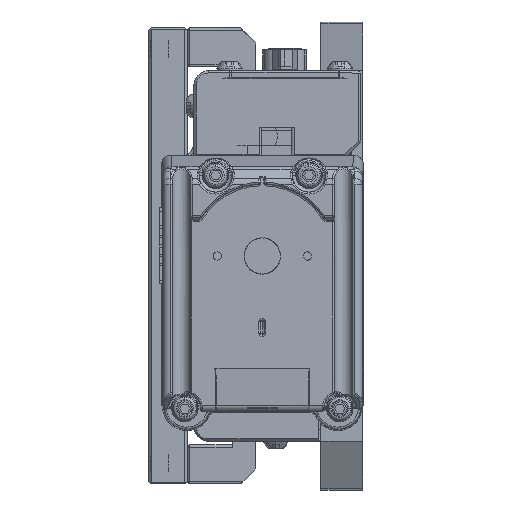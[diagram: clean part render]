
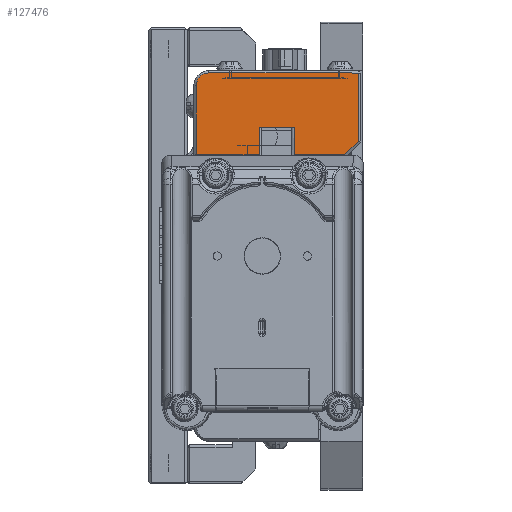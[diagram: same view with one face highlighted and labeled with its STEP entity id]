
A CAD part, left-side view. The second image highlights one B-rep face of the part: STEP entity #127476.
In plain terms, the highlighted planar face has unit normal (-1, 0, 0).
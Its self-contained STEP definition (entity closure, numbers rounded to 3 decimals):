
#1345 = LINE ( 'NONE', #125693, #73731 ) ;
#3693 = CARTESIAN_POINT ( 'NONE',  ( -73.66, 35.763, 77.978 ) ) ;
#4002 = VECTOR ( 'NONE', #42427, 1000. ) ;
#5499 = CARTESIAN_POINT ( 'NONE',  ( -73.66, 0.965, 77.978 ) ) ;
#5860 = DIRECTION ( 'NONE',  ( 0., 0., 1. ) ) ;
#7007 = LINE ( 'NONE', #8100, #59366 ) ;
#8100 = CARTESIAN_POINT ( 'NONE',  ( -73.66, 14.554, 78.486 ) ) ;
#8378 = LINE ( 'NONE', #28556, #83942 ) ;
#17594 = DIRECTION ( 'NONE',  ( 0., 0., 1. ) ) ;
#18626 = DIRECTION ( 'NONE',  ( 0., -0.707, 0.707 ) ) ;
#19107 = VERTEX_POINT ( 'NONE', #49778 ) ;
#20008 = LINE ( 'NONE', #3693, #66090 ) ;
#20476 = CARTESIAN_POINT ( 'NONE',  ( -73.66, 3.843, 60.706 ) ) ;
#22570 = CARTESIAN_POINT ( 'NONE',  ( -73.66, 35.763, 66.548 ) ) ;
#26547 = VERTEX_POINT ( 'NONE', #52118 ) ;
#28556 = CARTESIAN_POINT ( 'NONE',  ( -73.66, 3.843, 60.706 ) ) ;
#29888 = CARTESIAN_POINT ( 'NONE',  ( -73.66, 32.588, 75.311 ) ) ;
#32718 = DIRECTION ( 'NONE',  ( 0., -1., 0. ) ) ;
#33435 = LINE ( 'NONE', #120049, #108877 ) ;
#34722 = DIRECTION ( 'NONE',  ( 0., 0., 1. ) ) ;
#35743 = CARTESIAN_POINT ( 'NONE',  ( -73.66, 35.763, 60.706 ) ) ;
#39764 = DIRECTION ( 'NONE',  ( 0., 0., -1. ) ) ;
#39941 = CARTESIAN_POINT ( 'NONE',  ( -73.66, 35.255, 60.706 ) ) ;
#40910 = EDGE_CURVE ( 'NONE', #117172, #26547, #33435, .T. ) ;
#42427 = DIRECTION ( 'NONE',  ( 0., -1., 0. ) ) ;
#42434 = LINE ( 'NONE', #35743, #91723 ) ;
#44196 = CARTESIAN_POINT ( 'NONE',  ( -73.66, 21.92, 78.486 ) ) ;
#47639 = EDGE_LOOP ( 'NONE', ( #79952, #84134, #91567, #92750, #96919, #97427, #108645, #109687, #112268, #113046 ) ) ;
#49778 = CARTESIAN_POINT ( 'NONE',  ( -73.66, 32.588, 77.978 ) ) ;
#50933 = CARTESIAN_POINT ( 'NONE',  ( -73.66, 21.92, 60.706 ) ) ;
#52118 = CARTESIAN_POINT ( 'NONE',  ( -73.66, 35.255, 75.311 ) ) ;
#53344 = LINE ( 'NONE', #22570, #4002 ) ;
#54961 = PLANE ( 'NONE',  #84623 ) ;
#58354 = CARTESIAN_POINT ( 'NONE',  ( -73.66, 0.965, 63.583 ) ) ;
#59366 = VECTOR ( 'NONE', #86971, 1000. ) ;
#59784 = CARTESIAN_POINT ( 'NONE',  ( -73.66, 14.554, 66.548 ) ) ;
#61471 = EDGE_CURVE ( 'NONE', #71364, #78594, #53344, .T. ) ;
#62026 = EDGE_CURVE ( 'NONE', #78594, #69283, #7007, .T. ) ;
#62535 = VERTEX_POINT ( 'NONE', #5499 ) ;
#62596 = EDGE_CURVE ( 'NONE', #69283, #76593, #42434, .T. ) ;
#62930 = VECTOR ( 'NONE', #32718, 1000. ) ;
#62987 = EDGE_CURVE ( 'NONE', #76593, #88382, #8378, .T. ) ;
#63524 = EDGE_CURVE ( 'NONE', #88382, #62535, #1345, .T. ) ;
#63901 = EDGE_CURVE ( 'NONE', #91481, #71364, #81521, .T. ) ;
#64809 = DIRECTION ( 'NONE',  ( -1., 0., 0. ) ) ;
#66090 = VECTOR ( 'NONE', #82602, 1000. ) ;
#69283 = VERTEX_POINT ( 'NONE', #92999 ) ;
#71364 = VERTEX_POINT ( 'NONE', #113221 ) ;
#72220 = EDGE_CURVE ( 'NONE', #117172, #91481, #92346, .T. ) ;
#73731 = VECTOR ( 'NONE', #17594, 1000. ) ;
#76593 = VERTEX_POINT ( 'NONE', #20476 ) ;
#78594 = VERTEX_POINT ( 'NONE', #59784 ) ;
#79952 = ORIENTED_EDGE ( 'NONE', *, *, #72220, .T. ) ;
#80688 = EDGE_CURVE ( 'NONE', #62535, #19107, #20008, .T. ) ;
#81521 = LINE ( 'NONE', #44196, #95304 ) ;
#82602 = DIRECTION ( 'NONE',  ( 0., 1., 0. ) ) ;
#82738 = FACE_OUTER_BOUND ( 'NONE', #47639, .T. ) ;
#83942 = VECTOR ( 'NONE', #18626, 1000. ) ;
#84134 = ORIENTED_EDGE ( 'NONE', *, *, #63901, .T. ) ;
#84623 = AXIS2_PLACEMENT_3D ( 'NONE', #103981, #64809, #5860 ) ;
#86971 = DIRECTION ( 'NONE',  ( 0., 0., -1. ) ) ;
#88382 = VERTEX_POINT ( 'NONE', #58354 ) ;
#88524 = CIRCLE ( 'NONE', #121298, 2.667 ) ;
#91481 = VERTEX_POINT ( 'NONE', #50933 ) ;
#91567 = ORIENTED_EDGE ( 'NONE', *, *, #61471, .T. ) ;
#91723 = VECTOR ( 'NONE', #94694, 1000. ) ;
#92346 = LINE ( 'NONE', #101512, #62930 ) ;
#92750 = ORIENTED_EDGE ( 'NONE', *, *, #62026, .T. ) ;
#92999 = CARTESIAN_POINT ( 'NONE',  ( -73.66, 14.554, 60.706 ) ) ;
#94694 = DIRECTION ( 'NONE',  ( 0., -1., 0. ) ) ;
#95304 = VECTOR ( 'NONE', #34722, 1000. ) ;
#96919 = ORIENTED_EDGE ( 'NONE', *, *, #62596, .T. ) ;
#97427 = ORIENTED_EDGE ( 'NONE', *, *, #62987, .T. ) ;
#98676 = DIRECTION ( 'NONE',  ( 1., 0., 0. ) ) ;
#101512 = CARTESIAN_POINT ( 'NONE',  ( -73.66, 35.763, 60.706 ) ) ;
#101877 = EDGE_CURVE ( 'NONE', #26547, #19107, #88524, .T. ) ;
#103981 = CARTESIAN_POINT ( 'NONE',  ( -73.66, 35.763, 78.486 ) ) ;
#108645 = ORIENTED_EDGE ( 'NONE', *, *, #63524, .T. ) ;
#108877 = VECTOR ( 'NONE', #119007, 1000. ) ;
#109687 = ORIENTED_EDGE ( 'NONE', *, *, #80688, .T. ) ;
#112268 = ORIENTED_EDGE ( 'NONE', *, *, #101877, .F. ) ;
#113046 = ORIENTED_EDGE ( 'NONE', *, *, #40910, .F. ) ;
#113221 = CARTESIAN_POINT ( 'NONE',  ( -73.66, 21.92, 66.548 ) ) ;
#117172 = VERTEX_POINT ( 'NONE', #39941 ) ;
#119007 = DIRECTION ( 'NONE',  ( 0., 0., 1. ) ) ;
#120049 = CARTESIAN_POINT ( 'NONE',  ( -73.66, 35.255, 78.486 ) ) ;
#121298 = AXIS2_PLACEMENT_3D ( 'NONE', #29888, #98676, #39764 ) ;
#125693 = CARTESIAN_POINT ( 'NONE',  ( -73.66, 0.965, 78.486 ) ) ;
#127476 = ADVANCED_FACE ( 'NONE', ( #82738 ), #54961, .T. ) ;
